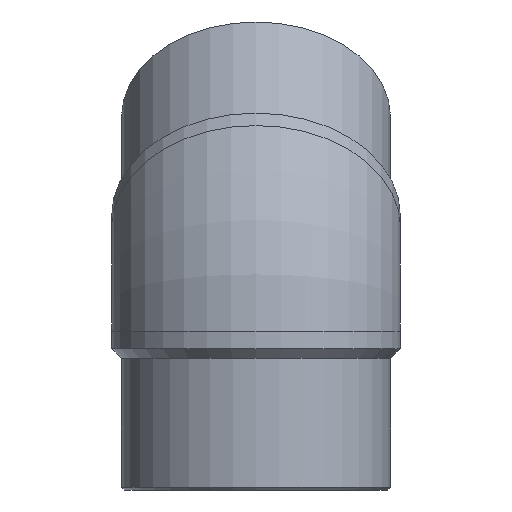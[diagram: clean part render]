
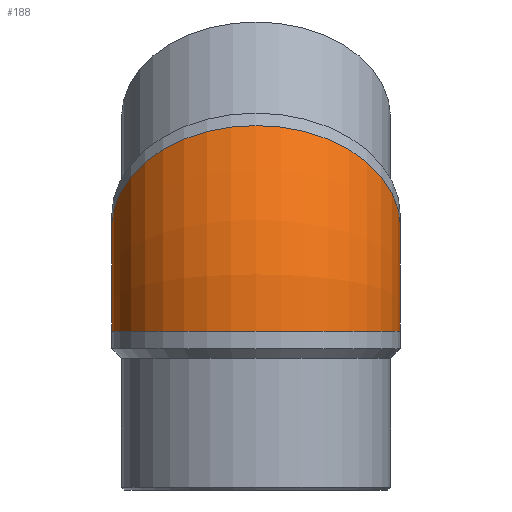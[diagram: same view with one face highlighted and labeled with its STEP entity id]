
A CAD part, left-side view. The second image highlights one B-rep face of the part: STEP entity #188.
In plain terms, the highlighted toroidal (fillet/blend) face has major radius 171.409 mm and minor radius 169 mm.
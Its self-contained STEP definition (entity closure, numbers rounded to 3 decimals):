
#20=TOROIDAL_SURFACE('',#225,171.409,169.);
#53=ORIENTED_EDGE('',*,*,#86,.F.);
#54=ORIENTED_EDGE('',*,*,#87,.T.);
#86=EDGE_CURVE('',#104,#104,#118,.F.);
#87=EDGE_CURVE('',#105,#105,#119,.F.);
#104=VERTEX_POINT('',#351);
#105=VERTEX_POINT('',#354);
#118=CIRCLE('',#224,169.);
#119=CIRCLE('',#226,169.);
#136=EDGE_LOOP('',(#53));
#137=EDGE_LOOP('',(#54));
#163=FACE_BOUND('',#136,.T.);
#164=FACE_BOUND('',#137,.T.);
#188=ADVANCED_FACE('',(#163,#164),#20,.T.);
#224=AXIS2_PLACEMENT_3D('',#350,#270,#271);
#225=AXIS2_PLACEMENT_3D('',#352,#272,#273);
#226=AXIS2_PLACEMENT_3D('',#353,#274,#275);
#270=DIRECTION('',(-0.707,0.,-0.707));
#271=DIRECTION('',(0.707,0.,-0.707));
#272=DIRECTION('',(0.,1.,0.));
#273=DIRECTION('',(0.,0.,1.));
#274=DIRECTION('',(0.,0.,-1.));
#275=DIRECTION('',(1.,0.,0.));
#350=CARTESIAN_POINT('',(50.205,0.,50.205));
#351=CARTESIAN_POINT('',(169.706,0.,-69.296));
#352=CARTESIAN_POINT('',(171.409,0.,-71.));
#353=CARTESIAN_POINT('',(0.,0.,-71.));
#354=CARTESIAN_POINT('',(169.,0.,-71.));
